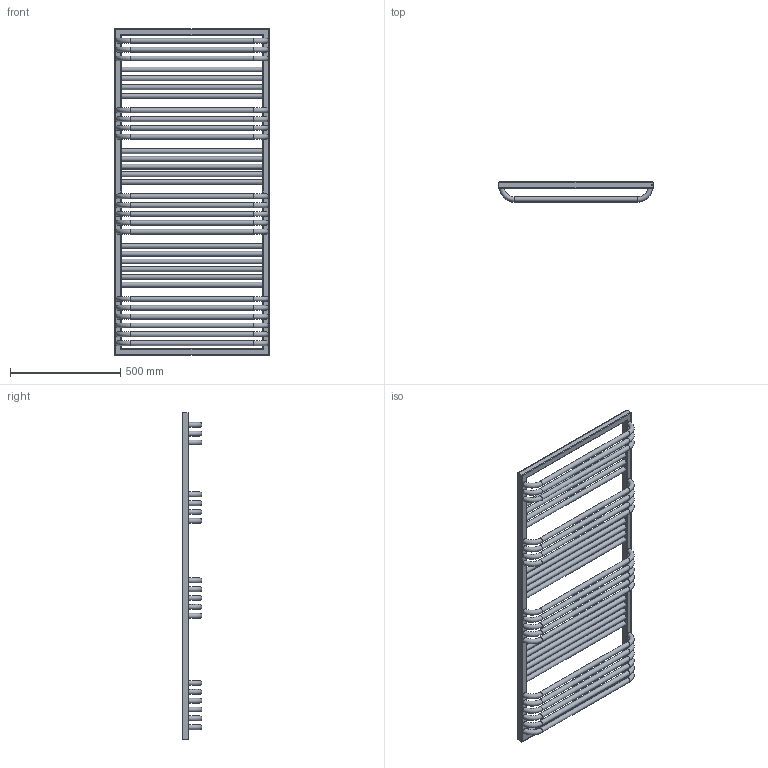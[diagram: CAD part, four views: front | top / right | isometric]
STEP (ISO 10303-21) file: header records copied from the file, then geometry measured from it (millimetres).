
FILE_DESCRIPTION((''),'2;1');
FILE_NAME('Z:\R\G\P\RGPH18 - Grzejnik POC\Work\Inventor\POC 1-6-8 v2.0\Marketing\AutoCad 3D\POC-1480-700-1-6-8.stp','2012-07-12T14:39:13',('KurKa'),(''),'Autodesk Inventor 2012','Autodesk Inventor 2012','');
FILE_SCHEMA(('AUTOMOTIVE_DESIGN { 1 0 10303 214 1 1 1 1 }'));
Length unit declared in the file: millimetre
Products named in the file (1): POC-1480-700-1-6-8
Bounding box: 700 x 90 x 1480 mm (x, y, z)
Volume: 12363406 mm3; surface area: 2024480.9 mm2
Topology: 1 solids, 1 shells, 104 faces, 278 edges, 179 vertices
Faces by surface type: cylinder 52, torus 39, plane 13
Full cylindrical faces by diameter (mm): 18.631 x3, 22 x33
Entity records: 4972 total; most frequent: CARTESIAN_POINT 2755, DIRECTION 432, ORIENTED_EDGE 334, EDGE_LOOP 250, AXIS2_PLACEMENT_3D 196, EDGE_CURVE 167, FACE_BOUND 146, VERTEX_POINT 143
